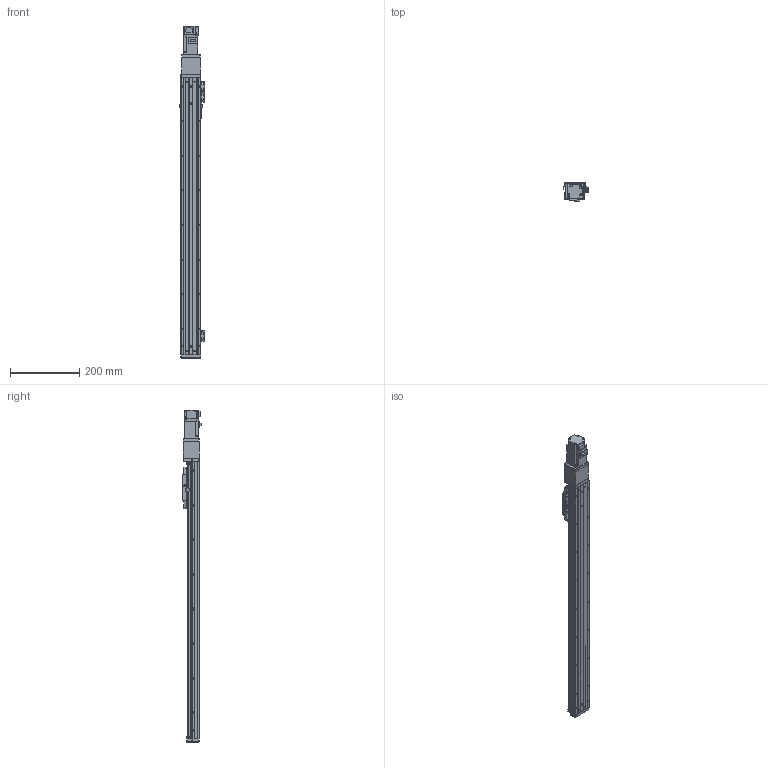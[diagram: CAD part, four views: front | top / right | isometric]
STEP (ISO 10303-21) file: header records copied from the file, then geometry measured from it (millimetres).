
FILE_DESCRIPTION (( 'STEP AP203' ), '1' );
FILE_NAME ('CTHA50-650-BC-M10-C4L.step', '2022-03-19T05:57:20', ( '微软用户' ), ( '微软中国' ), 'SwSTEP 2.0', 'SolidWorks 2020', '' );
FILE_SCHEMA (( 'CONFIG_CONTROL_DESIGN' ));
Length unit declared in the file: millimetre
Products named in the file (20): EE_SX911P_R; CTHA50-027; CTHA50-031; GBT77-2000 M3×3; CTHA50-006-2_CTHA60-006-2; CTHA50-650-BC-M10-C4L; GBT 70.1-M3℅6; CTHA50-013; KTHA50-001_800; CTHA60-017; HG-KR13（三菱）; KTHA50-004; GBT 70.1-M4×12; GBT 70.3-M3℅6; KTHA50-005; CTHA60-016; CTHA50-002; GB¨uT 70.2-M3¡Á6_M3¡Á6; CTHA60-021; CTHA50-030
Assembly tree (59 placements, depth 2):
  CTHA50-650-BC-M10-C4L
    KTHA50-001_800
    KTHA50-004
    KTHA50-005
    GB¨uT 70.2-M3¡Á6_M3¡Á6  x10
    EE_SX911P_R  x3
    GBT77-2000 M3×3  x6
    GBT 70.1-M3℅6  x6
    CTHA60-017  x3
    GBT 70.1-M4×12  x10
    CTHA60-016  x2
    CTHA60-021  x2
    CTHA50-027
    CTHA50-006-2_CTHA60-006-2
    CTHA50-013
    HG-KR13（三菱）
    GBT 70.3-M3℅6  x6
    CTHA50-002
    CTHA50-030  x2
    CTHA50-031
Bounding box: 74.12 x 53.3 x 958.6 mm (x, y, z)
Volume: 1525713.2 mm3; surface area: 404624.3 mm2
Topology: 61 solids, 61 shells, 2476 faces, 5906 edges, 3618 vertices
Faces by surface type: plane 1426, cylinder 562, cone 368, torus 96, sphere 24
Entity records: 41282 total; most frequent: CARTESIAN_POINT 6675, DIRECTION 6630, ORIENTED_EDGE 6380, EDGE_CURVE 3190, LINE 2330, VECTOR 2330, AXIS2_PLACEMENT_3D 2150, VERTEX_POINT 2011
